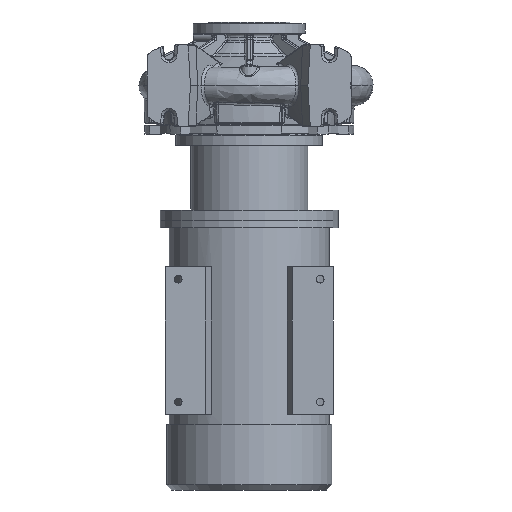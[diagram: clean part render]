
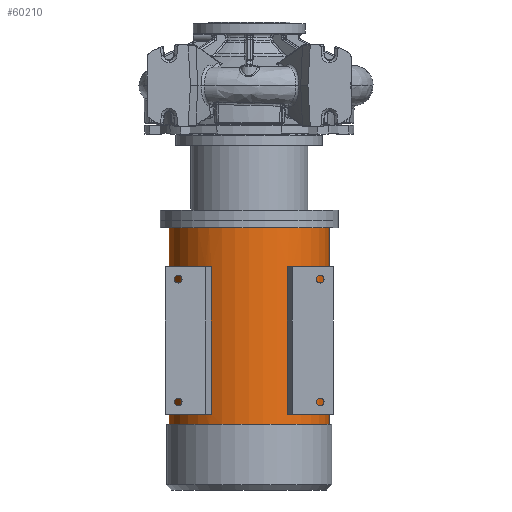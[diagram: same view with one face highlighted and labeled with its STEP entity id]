
A CAD part, front view. The second image highlights one B-rep face of the part: STEP entity #60210.
In plain terms, the highlighted cylindrical face has radius 157.5 mm (diameter 315 mm), a partial arc.
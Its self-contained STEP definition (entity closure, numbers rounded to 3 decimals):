
#1704 = ORIENTED_EDGE ( 'NONE', *, *, #83586, .T. ) ;
#2682 = CARTESIAN_POINT ( 'NONE',  ( -157.5, 0., -794.3 ) ) ;
#3533 = VECTOR ( 'NONE', #12481, 1000. ) ;
#4698 = AXIS2_PLACEMENT_3D ( 'NONE', #10901, #108288, #98875 ) ;
#5531 = VERTEX_POINT ( 'NONE', #93658 ) ;
#8734 = EDGE_CURVE ( 'NONE', #72522, #40333, #81797, .T. ) ;
#9213 = ORIENTED_EDGE ( 'NONE', *, *, #8734, .F. ) ;
#10369 = VERTEX_POINT ( 'NONE', #23231 ) ;
#10901 = CARTESIAN_POINT ( 'NONE',  ( 0., 0., -279.3 ) ) ;
#12026 = DIRECTION ( 'NONE',  ( 0., 0., 1. ) ) ;
#12204 = EDGE_LOOP ( 'NONE', ( #46241, #49426, #126259, #96987 ) ) ;
#12392 = DIRECTION ( 'NONE',  ( 0., 0., 1. ) ) ;
#12481 = DIRECTION ( 'NONE',  ( 0., 0., -1. ) ) ;
#13295 = DIRECTION ( 'NONE',  ( 0., 0., 1. ) ) ;
#14254 = CARTESIAN_POINT ( 'NONE',  ( -157.5, 0., -279.3 ) ) ;
#16910 = LINE ( 'NONE', #70862, #125334 ) ;
#17432 = ORIENTED_EDGE ( 'NONE', *, *, #117539, .F. ) ;
#17947 = AXIS2_PLACEMENT_3D ( 'NONE', #50055, #12026, #69652 ) ;
#19482 = AXIS2_PLACEMENT_3D ( 'NONE', #106420, #85464, #126478 ) ;
#22112 = DIRECTION ( 'NONE',  ( 0., 0., -1. ) ) ;
#23231 = CARTESIAN_POINT ( 'NONE',  ( 74.479, -138.777, -355.8 ) ) ;
#27273 = ORIENTED_EDGE ( 'NONE', *, *, #110402, .T. ) ;
#28894 = VERTEX_POINT ( 'NONE', #64933 ) ;
#31107 = VERTEX_POINT ( 'NONE', #81833 ) ;
#32563 = DIRECTION ( 'NONE',  ( 0., 0., -1. ) ) ;
#33025 = DIRECTION ( 'NONE',  ( 0., 0., -1. ) ) ;
#36597 = FACE_OUTER_BOUND ( 'NONE', #94390, .T. ) ;
#37567 = AXIS2_PLACEMENT_3D ( 'NONE', #83666, #44855, #103798 ) ;
#38441 = CIRCLE ( 'NONE', #79230, 157.5 ) ;
#40333 = VERTEX_POINT ( 'NONE', #44094 ) ;
#40464 = CARTESIAN_POINT ( 'NONE',  ( -86.091, -131.889, -794.3 ) ) ;
#42970 = CARTESIAN_POINT ( 'NONE',  ( 157.5, 0., -279.3 ) ) ;
#44094 = CARTESIAN_POINT ( 'NONE',  ( 157.5, 0., -665.3 ) ) ;
#44855 = DIRECTION ( 'NONE',  ( 0., 0., -1. ) ) ;
#46241 = ORIENTED_EDGE ( 'NONE', *, *, #51521, .F. ) ;
#47768 = VERTEX_POINT ( 'NONE', #56472 ) ;
#49426 = ORIENTED_EDGE ( 'NONE', *, *, #79971, .T. ) ;
#49625 = CIRCLE ( 'NONE', #79943, 157.5 ) ;
#50055 = CARTESIAN_POINT ( 'NONE',  ( 0., 0., -355.8 ) ) ;
#50105 = VERTEX_POINT ( 'NONE', #14254 ) ;
#50338 = EDGE_CURVE ( 'NONE', #100888, #31107, #86354, .T. ) ;
#51521 = EDGE_CURVE ( 'NONE', #82927, #54458, #49625, .T. ) ;
#51929 = CIRCLE ( 'NONE', #19482, 157.5 ) ;
#53370 = EDGE_CURVE ( 'NONE', #68774, #28894, #16910, .T. ) ;
#54435 = ORIENTED_EDGE ( 'NONE', *, *, #68802, .T. ) ;
#54458 = VERTEX_POINT ( 'NONE', #67768 ) ;
#56472 = CARTESIAN_POINT ( 'NONE',  ( 86.091, -131.889, -355.8 ) ) ;
#58977 = EDGE_CURVE ( 'NONE', #28894, #100888, #38441, .T. ) ;
#59843 = EDGE_CURVE ( 'NONE', #10369, #47768, #88631, .T. ) ;
#59884 = CARTESIAN_POINT ( 'NONE',  ( -74.479, -138.777, -645.8 ) ) ;
#60210 = ADVANCED_FACE ( 'NONE', ( #36597, #85427, #96158 ), #116003, .T. ) ;
#61134 = CARTESIAN_POINT ( 'NONE',  ( 0., 0., -645.8 ) ) ;
#61729 = AXIS2_PLACEMENT_3D ( 'NONE', #62550, #82986, #81702 ) ;
#62550 = CARTESIAN_POINT ( 'NONE',  ( 0., 0., -645.8 ) ) ;
#63573 = LINE ( 'NONE', #81615, #77267 ) ;
#64933 = CARTESIAN_POINT ( 'NONE',  ( -74.479, -138.777, -355.8 ) ) ;
#65150 = CIRCLE ( 'NONE', #4698, 157.5 ) ;
#67768 = CARTESIAN_POINT ( 'NONE',  ( 86.091, -131.889, -645.8 ) ) ;
#68774 = VERTEX_POINT ( 'NONE', #59884 ) ;
#68802 = EDGE_CURVE ( 'NONE', #50105, #5531, #92067, .T. ) ;
#69652 = DIRECTION ( 'NONE',  ( -1., 0., 0. ) ) ;
#70862 = CARTESIAN_POINT ( 'NONE',  ( -74.479, -138.777, -794.3 ) ) ;
#71234 = CARTESIAN_POINT ( 'NONE',  ( 74.479, -138.777, -794.3 ) ) ;
#72359 = ORIENTED_EDGE ( 'NONE', *, *, #58977, .F. ) ;
#72522 = VERTEX_POINT ( 'NONE', #42970 ) ;
#72997 = VECTOR ( 'NONE', #81437, 1000. ) ;
#77267 = VECTOR ( 'NONE', #33025, 1000. ) ;
#79230 = AXIS2_PLACEMENT_3D ( 'NONE', #111561, #32563, #90595 ) ;
#79943 = AXIS2_PLACEMENT_3D ( 'NONE', #61134, #13295, #81536 ) ;
#79971 = EDGE_CURVE ( 'NONE', #82927, #10369, #124954, .T. ) ;
#81437 = DIRECTION ( 'NONE',  ( 0., 0., 1. ) ) ;
#81536 = DIRECTION ( 'NONE',  ( -1., 0., 0. ) ) ;
#81615 = CARTESIAN_POINT ( 'NONE',  ( 86.091, -131.889, -794.3 ) ) ;
#81702 = DIRECTION ( 'NONE',  ( 1., 0., 0. ) ) ;
#81797 = LINE ( 'NONE', #120975, #91005 ) ;
#81833 = CARTESIAN_POINT ( 'NONE',  ( -86.091, -131.889, -645.8 ) ) ;
#82023 = CARTESIAN_POINT ( 'NONE',  ( -86.091, -131.889, -355.8 ) ) ;
#82043 = DIRECTION ( 'NONE',  ( 0., 0., -1. ) ) ;
#82927 = VERTEX_POINT ( 'NONE', #98883 ) ;
#82986 = DIRECTION ( 'NONE',  ( 0., 0., -1. ) ) ;
#83586 = EDGE_CURVE ( 'NONE', #68774, #31107, #97980, .T. ) ;
#83666 = CARTESIAN_POINT ( 'NONE',  ( 0., 0., -794.3 ) ) ;
#84442 = EDGE_LOOP ( 'NONE', ( #119810, #1704, #115593, #72359 ) ) ;
#85427 = FACE_BOUND ( 'NONE', #12204, .T. ) ;
#85464 = DIRECTION ( 'NONE',  ( 0., 0., -1. ) ) ;
#86354 = LINE ( 'NONE', #40464, #92518 ) ;
#88631 = CIRCLE ( 'NONE', #17947, 157.5 ) ;
#90595 = DIRECTION ( 'NONE',  ( 1., 0., 0. ) ) ;
#91005 = VECTOR ( 'NONE', #82043, 1000. ) ;
#92067 = LINE ( 'NONE', #2682, #3533 ) ;
#92518 = VECTOR ( 'NONE', #22112, 1000. ) ;
#93658 = CARTESIAN_POINT ( 'NONE',  ( -157.5, 0., -665.3 ) ) ;
#94390 = EDGE_LOOP ( 'NONE', ( #9213, #27273, #54435, #17432 ) ) ;
#96158 = FACE_BOUND ( 'NONE', #84442, .T. ) ;
#96987 = ORIENTED_EDGE ( 'NONE', *, *, #110773, .T. ) ;
#97980 = CIRCLE ( 'NONE', #61729, 157.5 ) ;
#98875 = DIRECTION ( 'NONE',  ( -1., 0., 0. ) ) ;
#98883 = CARTESIAN_POINT ( 'NONE',  ( 74.479, -138.777, -645.8 ) ) ;
#100888 = VERTEX_POINT ( 'NONE', #82023 ) ;
#103798 = DIRECTION ( 'NONE',  ( -1., 0., 0. ) ) ;
#106420 = CARTESIAN_POINT ( 'NONE',  ( 0., 0., -665.3 ) ) ;
#108288 = DIRECTION ( 'NONE',  ( 0., 0., -1. ) ) ;
#110402 = EDGE_CURVE ( 'NONE', #72522, #50105, #65150, .T. ) ;
#110773 = EDGE_CURVE ( 'NONE', #47768, #54458, #63573, .T. ) ;
#111561 = CARTESIAN_POINT ( 'NONE',  ( 0., 0., -355.8 ) ) ;
#115593 = ORIENTED_EDGE ( 'NONE', *, *, #50338, .F. ) ;
#116003 = CYLINDRICAL_SURFACE ( 'NONE', #37567, 157.5 ) ;
#117539 = EDGE_CURVE ( 'NONE', #40333, #5531, #51929, .T. ) ;
#119810 = ORIENTED_EDGE ( 'NONE', *, *, #53370, .F. ) ;
#120975 = CARTESIAN_POINT ( 'NONE',  ( 157.5, 0., -794.3 ) ) ;
#124954 = LINE ( 'NONE', #71234, #72997 ) ;
#125334 = VECTOR ( 'NONE', #12392, 1000. ) ;
#126259 = ORIENTED_EDGE ( 'NONE', *, *, #59843, .T. ) ;
#126478 = DIRECTION ( 'NONE',  ( -1., 0., 0. ) ) ;
